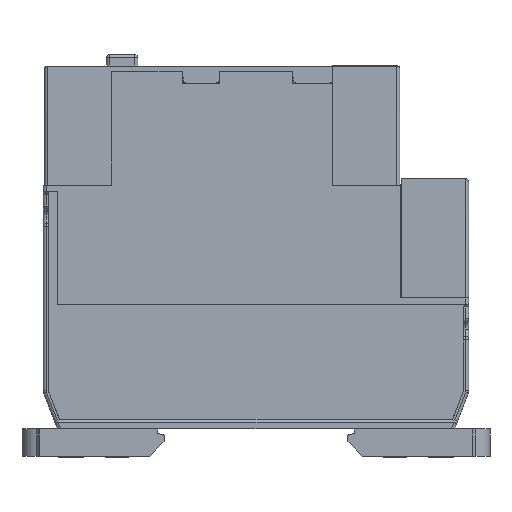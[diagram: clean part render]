
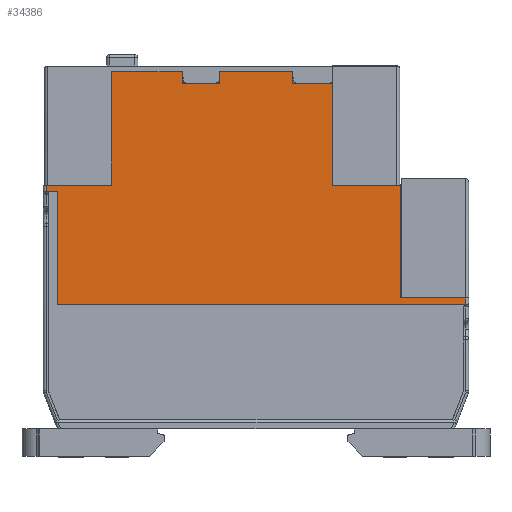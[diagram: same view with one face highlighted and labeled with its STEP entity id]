
A CAD part, left-side view. The second image highlights one B-rep face of the part: STEP entity #34386.
In plain terms, the highlighted planar face has unit normal (-1, 0, 0).
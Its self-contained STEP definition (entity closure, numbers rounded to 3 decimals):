
#147 = EDGE_CURVE ( 'NONE', #788, #36440, #2999, .T. ) ;
#788 = VERTEX_POINT ( 'NONE', #7945 ) ;
#1191 = VERTEX_POINT ( 'NONE', #17677 ) ;
#1269 = DIRECTION ( 'NONE',  ( 0., 1., 0. ) ) ;
#1340 = ORIENTED_EDGE ( 'NONE', *, *, #12500, .T. ) ;
#1521 = CARTESIAN_POINT ( 'NONE',  ( 0., 48.102, 66.427 ) ) ;
#1528 = LINE ( 'NONE', #13385, #37206 ) ;
#2117 = DIRECTION ( 'NONE',  ( 0., 0., 1. ) ) ;
#2688 = VERTEX_POINT ( 'NONE', #20688 ) ;
#2969 = CARTESIAN_POINT ( 'NONE',  ( 0., 78.896, 47.83 ) ) ;
#2999 = LINE ( 'NONE', #5461, #16404 ) ;
#3367 = VERTEX_POINT ( 'NONE', #21702 ) ;
#3413 = LINE ( 'NONE', #31637, #21601 ) ;
#4039 = VERTEX_POINT ( 'NONE', #17929 ) ;
#4233 = ORIENTED_EDGE ( 'NONE', *, *, #30548, .T. ) ;
#4664 = DIRECTION ( 'NONE',  ( 0., -1., 0. ) ) ;
#5079 = CARTESIAN_POINT ( 'NONE',  ( 0., 76.88, 27.115 ) ) ;
#5260 = VERTEX_POINT ( 'NONE', #30771 ) ;
#5334 = EDGE_CURVE ( 'NONE', #1191, #18032, #33034, .T. ) ;
#5367 = LINE ( 'NONE', #17670, #8303 ) ;
#5461 = CARTESIAN_POINT ( 'NONE',  ( 0., 10.856, 28.325 ) ) ;
#5858 = ORIENTED_EDGE ( 'NONE', *, *, #29133, .T. ) ;
#6201 = VERTEX_POINT ( 'NONE', #7799 ) ;
#7173 = CARTESIAN_POINT ( 'NONE',  ( 0., 78.896, 47.174 ) ) ;
#7259 = ORIENTED_EDGE ( 'NONE', *, *, #25254, .T. ) ;
#7395 = VECTOR ( 'NONE', #26684, 1000. ) ;
#7599 = EDGE_CURVE ( 'NONE', #18032, #5260, #12537, .T. ) ;
#7799 = CARTESIAN_POINT ( 'NONE',  ( 0., 27.992, 66.427 ) ) ;
#7945 = CARTESIAN_POINT ( 'NONE',  ( 0., 15.896, 28.325 ) ) ;
#8244 = VECTOR ( 'NONE', #20068, 1000. ) ;
#8303 = VECTOR ( 'NONE', #27435, 1000. ) ;
#8325 = ORIENTED_EDGE ( 'NONE', *, *, #147, .F. ) ;
#8456 = ORIENTED_EDGE ( 'NONE', *, *, #8775, .T. ) ;
#8512 = CARTESIAN_POINT ( 'NONE',  ( 0., 15.896, 47.83 ) ) ;
#8638 = CARTESIAN_POINT ( 'NONE',  ( 0., 48.102, 47.83 ) ) ;
#8775 = EDGE_CURVE ( 'NONE', #6201, #37024, #9621, .T. ) ;
#9621 = LINE ( 'NONE', #25977, #33848 ) ;
#10077 = EDGE_CURVE ( 'NONE', #38139, #36440, #31667, .T. ) ;
#10995 = ORIENTED_EDGE ( 'NONE', *, *, #23856, .F. ) ;
#11353 = ORIENTED_EDGE ( 'NONE', *, *, #25950, .T. ) ;
#11816 = VERTEX_POINT ( 'NONE', #32557 ) ;
#12245 = VECTOR ( 'NONE', #39692, 1000. ) ;
#12301 = DIRECTION ( 'NONE',  ( 0., 0., -1. ) ) ;
#12358 = DIRECTION ( 'NONE',  ( 0., 0., -1. ) ) ;
#12500 = EDGE_CURVE ( 'NONE', #4039, #6201, #27457, .T. ) ;
#12537 = LINE ( 'NONE', #21194, #21987 ) ;
#12988 = LINE ( 'NONE', #28132, #13153 ) ;
#13153 = VECTOR ( 'NONE', #13389, 1000. ) ;
#13385 = CARTESIAN_POINT ( 'NONE',  ( 0., 41.6, 27.115 ) ) ;
#13389 = DIRECTION ( 'NONE',  ( 0., 0., -1. ) ) ;
#14226 = DIRECTION ( 'NONE',  ( 0., 1., 0. ) ) ;
#14297 = LINE ( 'NONE', #17407, #8244 ) ;
#15671 = EDGE_CURVE ( 'NONE', #24408, #38341, #18494, .T. ) ;
#15707 = VECTOR ( 'NONE', #14226, 1000. ) ;
#16404 = VECTOR ( 'NONE', #33496, 1000. ) ;
#17160 = DIRECTION ( 'NONE',  ( -1., 0., 0. ) ) ;
#17192 = VECTOR ( 'NONE', #1269, 1000. ) ;
#17407 = CARTESIAN_POINT ( 'NONE',  ( 0., 35.098, 47.83 ) ) ;
#17670 = CARTESIAN_POINT ( 'NONE',  ( 0., 41.6, 47.174 ) ) ;
#17677 = CARTESIAN_POINT ( 'NONE',  ( 0., 48.102, 68.544 ) ) ;
#17929 = CARTESIAN_POINT ( 'NONE',  ( 0., 27.992, 48.384 ) ) ;
#18032 = VERTEX_POINT ( 'NONE', #1521 ) ;
#18075 = ORIENTED_EDGE ( 'NONE', *, *, #20944, .T. ) ;
#18201 = DIRECTION ( 'NONE',  ( 0., 0., 1. ) ) ;
#18494 = LINE ( 'NONE', #27643, #21786 ) ;
#18745 = LINE ( 'NONE', #2969, #39790 ) ;
#19024 = CARTESIAN_POINT ( 'NONE',  ( 0., 78.896, 48.384 ) ) ;
#19903 = ORIENTED_EDGE ( 'NONE', *, *, #5334, .T. ) ;
#19981 = AXIS2_PLACEMENT_3D ( 'NONE', #20436, #17160, #4664 ) ;
#20068 = DIRECTION ( 'NONE',  ( 0., 0., 1. ) ) ;
#20436 = CARTESIAN_POINT ( 'NONE',  ( 0., 78.896, 27.115 ) ) ;
#20688 = CARTESIAN_POINT ( 'NONE',  ( 0., 54.704, 68.544 ) ) ;
#20944 = EDGE_CURVE ( 'NONE', #788, #11816, #36551, .T. ) ;
#21120 = DIRECTION ( 'NONE',  ( 0., -1., 0. ) ) ;
#21194 = CARTESIAN_POINT ( 'NONE',  ( 0., 41.6, 66.427 ) ) ;
#21315 = CARTESIAN_POINT ( 'NONE',  ( 0., 67.228, 48.384 ) ) ;
#21601 = VECTOR ( 'NONE', #25271, 1000. ) ;
#21702 = CARTESIAN_POINT ( 'NONE',  ( 0., 67.304, 68.544 ) ) ;
#21786 = VECTOR ( 'NONE', #12301, 1000. ) ;
#21790 = VERTEX_POINT ( 'NONE', #19024 ) ;
#21987 = VECTOR ( 'NONE', #24235, 1000. ) ;
#22080 = CARTESIAN_POINT ( 'NONE',  ( 0., 4.304, 47.83 ) ) ;
#22392 = ORIENTED_EDGE ( 'NONE', *, *, #10077, .T. ) ;
#23856 = EDGE_CURVE ( 'NONE', #21790, #30795, #33772, .T. ) ;
#24235 = DIRECTION ( 'NONE',  ( 0., 1., 0. ) ) ;
#24395 = EDGE_CURVE ( 'NONE', #33006, #1191, #36105, .T. ) ;
#24408 = VERTEX_POINT ( 'NONE', #36711 ) ;
#24434 = ORIENTED_EDGE ( 'NONE', *, *, #24395, .T. ) ;
#24625 = EDGE_CURVE ( 'NONE', #38341, #38139, #1528, .T. ) ;
#24664 = ORIENTED_EDGE ( 'NONE', *, *, #7599, .T. ) ;
#25254 = EDGE_CURVE ( 'NONE', #3367, #30795, #12988, .T. ) ;
#25271 = DIRECTION ( 'NONE',  ( 0., 0., 1. ) ) ;
#25950 = EDGE_CURVE ( 'NONE', #11816, #4039, #32350, .T. ) ;
#25977 = CARTESIAN_POINT ( 'NONE',  ( 0., 41.6, 66.427 ) ) ;
#26044 = DIRECTION ( 'NONE',  ( 0., -1., 0. ) ) ;
#26184 = EDGE_CURVE ( 'NONE', #2688, #3367, #33464, .T. ) ;
#26223 = CARTESIAN_POINT ( 'NONE',  ( 0., 4.304, 28.325 ) ) ;
#26568 = ORIENTED_EDGE ( 'NONE', *, *, #29694, .T. ) ;
#26655 = CARTESIAN_POINT ( 'NONE',  ( 0., 27.992, 47.83 ) ) ;
#26684 = DIRECTION ( 'NONE',  ( 0., 1., 0. ) ) ;
#26716 = CARTESIAN_POINT ( 'NONE',  ( 0., 35.098, 68.544 ) ) ;
#27308 = VECTOR ( 'NONE', #2117, 1000. ) ;
#27435 = DIRECTION ( 'NONE',  ( 0., -1., 0. ) ) ;
#27457 = LINE ( 'NONE', #26655, #27308 ) ;
#27643 = CARTESIAN_POINT ( 'NONE',  ( 0., 76.88, 47.83 ) ) ;
#28132 = CARTESIAN_POINT ( 'NONE',  ( 0., 67.304, 47.83 ) ) ;
#29133 = EDGE_CURVE ( 'NONE', #37024, #33006, #14297, .T. ) ;
#29221 = CARTESIAN_POINT ( 'NONE',  ( 0., 35.098, 66.427 ) ) ;
#29275 = CARTESIAN_POINT ( 'NONE',  ( 0., 41.6, 48.384 ) ) ;
#29694 = EDGE_CURVE ( 'NONE', #36716, #24408, #5367, .T. ) ;
#30016 = FACE_OUTER_BOUND ( 'NONE', #37075, .T. ) ;
#30548 = EDGE_CURVE ( 'NONE', #5260, #2688, #3413, .T. ) ;
#30771 = CARTESIAN_POINT ( 'NONE',  ( 0., 54.704, 66.427 ) ) ;
#30795 = VERTEX_POINT ( 'NONE', #32549 ) ;
#31404 = ORIENTED_EDGE ( 'NONE', *, *, #37085, .T. ) ;
#31637 = CARTESIAN_POINT ( 'NONE',  ( 0., 54.704, 47.83 ) ) ;
#31667 = LINE ( 'NONE', #22080, #37639 ) ;
#31907 = CARTESIAN_POINT ( 'NONE',  ( 0., 4.304, 27.115 ) ) ;
#32350 = LINE ( 'NONE', #29275, #17192 ) ;
#32549 = CARTESIAN_POINT ( 'NONE',  ( 0., 67.304, 48.384 ) ) ;
#32557 = CARTESIAN_POINT ( 'NONE',  ( 0., 15.896, 48.384 ) ) ;
#33006 = VERTEX_POINT ( 'NONE', #26716 ) ;
#33034 = LINE ( 'NONE', #8638, #12245 ) ;
#33307 = ORIENTED_EDGE ( 'NONE', *, *, #24625, .T. ) ;
#33395 = ORIENTED_EDGE ( 'NONE', *, *, #15671, .T. ) ;
#33464 = LINE ( 'NONE', #39321, #7395 ) ;
#33496 = DIRECTION ( 'NONE',  ( 0., -1., 0. ) ) ;
#33772 = LINE ( 'NONE', #21315, #40385 ) ;
#33848 = VECTOR ( 'NONE', #38417, 1000. ) ;
#34137 = DIRECTION ( 'NONE',  ( 0., 0., 1. ) ) ;
#34386 = ADVANCED_FACE ( 'NONE', ( #30016 ), #38946, .T. ) ;
#34973 = VECTOR ( 'NONE', #18201, 1000. ) ;
#35900 = CARTESIAN_POINT ( 'NONE',  ( 0., 41.6, 68.544 ) ) ;
#36105 = LINE ( 'NONE', #35900, #15707 ) ;
#36440 = VERTEX_POINT ( 'NONE', #26223 ) ;
#36551 = LINE ( 'NONE', #8512, #34973 ) ;
#36711 = CARTESIAN_POINT ( 'NONE',  ( 0., 76.88, 47.174 ) ) ;
#36716 = VERTEX_POINT ( 'NONE', #7173 ) ;
#37024 = VERTEX_POINT ( 'NONE', #29221 ) ;
#37075 = EDGE_LOOP ( 'NONE', ( #33307, #22392, #8325, #18075, #11353, #1340, #8456, #5858, #24434, #19903, #24664, #4233, #38728, #7259, #10995, #31404, #26568, #33395 ) ) ;
#37085 = EDGE_CURVE ( 'NONE', #21790, #36716, #18745, .T. ) ;
#37206 = VECTOR ( 'NONE', #26044, 1000. ) ;
#37639 = VECTOR ( 'NONE', #34137, 1000. ) ;
#38139 = VERTEX_POINT ( 'NONE', #31907 ) ;
#38341 = VERTEX_POINT ( 'NONE', #5079 ) ;
#38417 = DIRECTION ( 'NONE',  ( 0., 1., 0. ) ) ;
#38728 = ORIENTED_EDGE ( 'NONE', *, *, #26184, .T. ) ;
#38946 = PLANE ( 'NONE',  #19981 ) ;
#39321 = CARTESIAN_POINT ( 'NONE',  ( 0., 41.6, 68.544 ) ) ;
#39692 = DIRECTION ( 'NONE',  ( 0., 0., -1. ) ) ;
#39790 = VECTOR ( 'NONE', #12358, 1000. ) ;
#40385 = VECTOR ( 'NONE', #21120, 1000. ) ;
